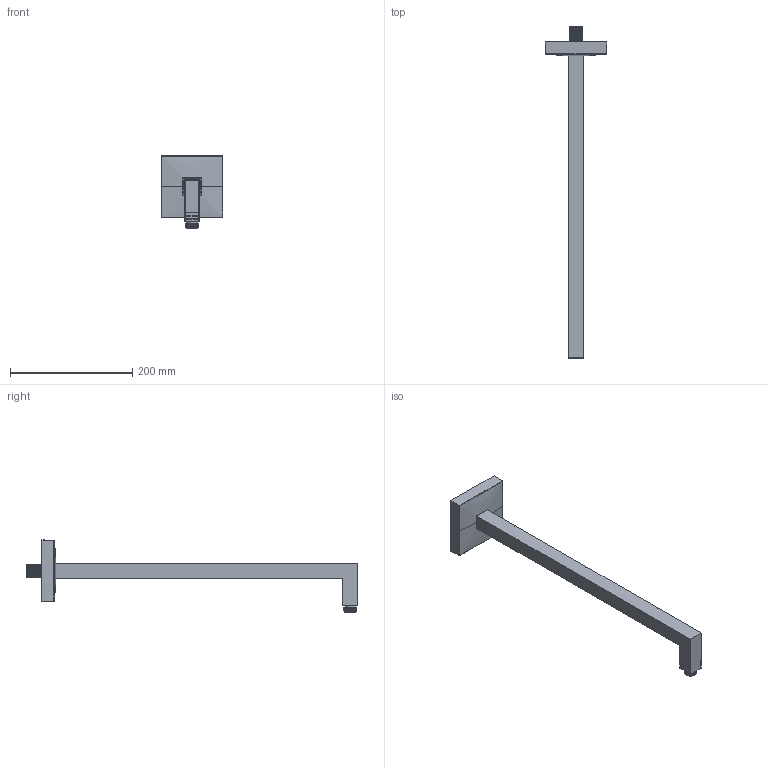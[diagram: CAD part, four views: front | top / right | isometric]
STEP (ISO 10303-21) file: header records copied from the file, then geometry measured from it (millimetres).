
FILE_DESCRIPTION (( 'STEP AP203' ), '1' );
FILE_NAME ('ARM2_50.STEP', '2019-07-25T07:44:10', ( '' ), ( '' ), 'SwSTEP 2.0', 'SolidWorks 2014', '' );
FILE_SCHEMA (( 'CONFIG_CONTROL_DESIGN' ));
Length unit declared in the file: millimetre
Products named in the file (9): C039002_00000ZZ; C021051_02100ZZ_ASM; C021051_TUBO; C039028_00100ZZ_AF0; ARM2_50; E073025_02100SA_ASM_1; A073040_00101ZZ_1; A028079_13041ZZ_1; C011015_02700ZZ_1
Assembly tree (8 placements, depth 3):
  ARM2_50
    C021051_02100ZZ_ASM
      C021051_TUBO
      C039028_00100ZZ_AF0
      C039002_00000ZZ
    C011015_02700ZZ_1
    E073025_02100SA_ASM_1
      A073040_00101ZZ_1
      A028079_13041ZZ_1
Bounding box: 100.7 x 542.5 x 117.85 mm (x, y, z)
Volume: 183302.7 mm3; surface area: 172033.2 mm2
Topology: 6 solids, 6 shells, 832 faces, 2177 edges, 1360 vertices
Faces by surface type: plane 297, bspline 244, cylinder 195, cone 84, torus 12
Entity records: 49265 total; most frequent: CARTESIAN_POINT 30713, ORIENTED_EDGE 4324, DIRECTION 2571, EDGE_CURVE 2162, VERTEX_POINT 1360, B_SPLINE_CURVE_WITH_KNOTS 939, LINE 899, VECTOR 899
